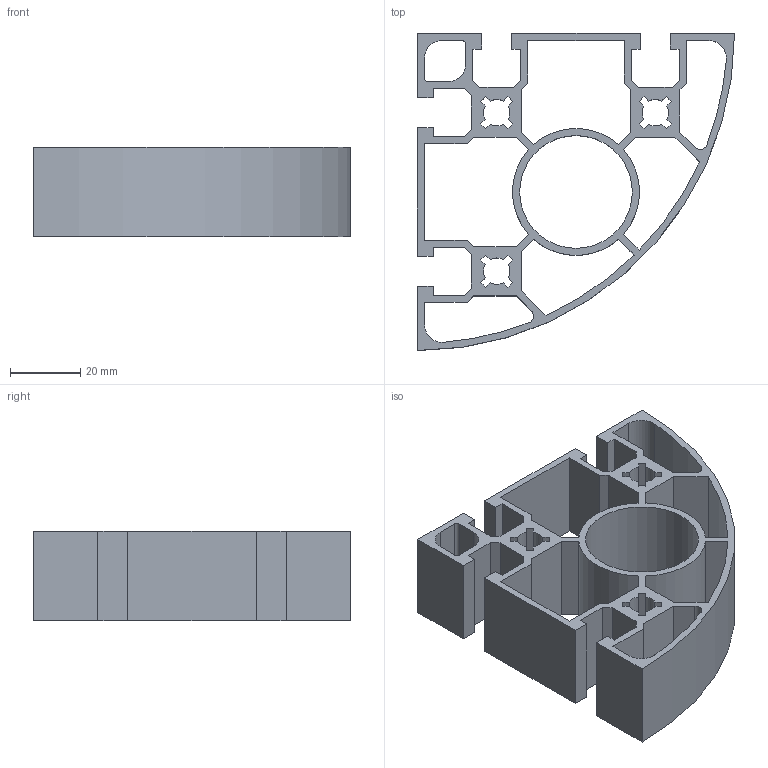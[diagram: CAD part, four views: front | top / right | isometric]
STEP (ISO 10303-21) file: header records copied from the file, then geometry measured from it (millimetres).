
FILE_DESCRIPTION((''),'2;1');
FILE_NAME('C:\Documents and Settings\Administrator\My Documents\Andys Backup Data\STEP LIBRARIES\MINITEC STEP LIBRARIES\ALUMINUM PROFILES\20.1091 90 R 90.stp','2009-01-14T16:19:02',('Administrator'),(''),'Autodesk Inventor 2009','Autodesk Inventor 2009','');
FILE_SCHEMA(('AUTOMOTIVE_DESIGN { 1 0 10303 214 1 1 1 1 }'));
Length unit declared in the file: inch
Products named in the file (1): 20.1091 90 R 90
Bounding box: 90 x 90 x 25.4 mm (x, y, z)
Volume: 39986.6 mm3; surface area: 36142.3 mm2
Topology: 1 solids, 1 shells, 153 faces, 453 edges, 302 vertices
Faces by surface type: plane 122, cylinder 31
Full cylindrical faces by diameter (mm): 32 x1
Entity records: 5136 total; most frequent: CARTESIAN_POINT 908, ORIENTED_EDGE 904, DIRECTION 822, EDGE_CURVE 452, VECTOR 390, LINE 390, VERTEX_POINT 302, AXIS2_PLACEMENT_3D 216
